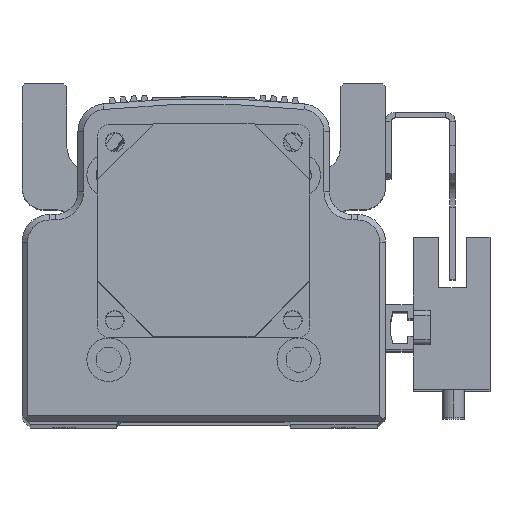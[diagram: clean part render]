
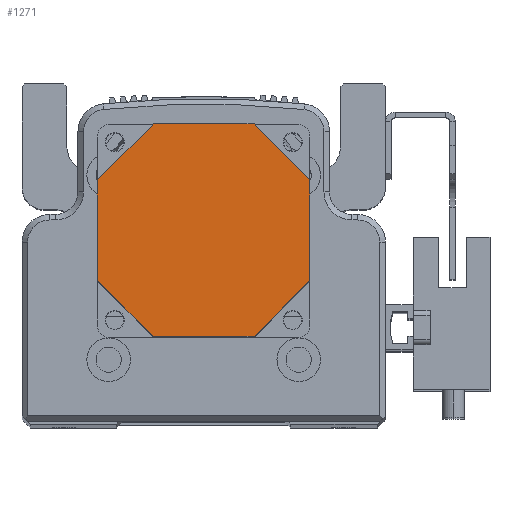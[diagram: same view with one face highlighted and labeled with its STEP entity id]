
A CAD part, top view. The second image highlights one B-rep face of the part: STEP entity #1271.
In plain terms, the highlighted planar face has unit normal (0, 0, 1) as drawn and (0, 0, -1) by its records, which use the part's own axes.
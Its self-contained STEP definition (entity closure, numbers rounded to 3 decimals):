
#1271 = ADVANCED_FACE ( 'NONE', ( #27900 ), #11298, .F. ) ;
#3063 = AXIS2_PLACEMENT_3D ( 'NONE', #11264, #11299, #11285 ) ;
#9305 = VECTOR ( 'NONE', #30907, 1000. ) ;
#9335 = LINE ( 'NONE', #30899, #9305 ) ;
#9399 = VECTOR ( 'NONE', #31139, 1000. ) ;
#9403 = VECTOR ( 'NONE', #31133, 1000. ) ;
#9489 = LINE ( 'NONE', #31127, #9399 ) ;
#9491 = LINE ( 'NONE', #31147, #9403 ) ;
#9629 = VECTOR ( 'NONE', #31509, 1000. ) ;
#9635 = VECTOR ( 'NONE', #31534, 1000. ) ;
#9637 = LINE ( 'NONE', #31527, #9635 ) ;
#9643 = LINE ( 'NONE', #31518, #9659 ) ;
#9645 = LINE ( 'NONE', #31490, #9655 ) ;
#9647 = LINE ( 'NONE', #31568, #9663 ) ;
#9655 = VECTOR ( 'NONE', #31492, 1000. ) ;
#9657 = LINE ( 'NONE', #31537, #9629 ) ;
#9659 = VECTOR ( 'NONE', #31498, 1000. ) ;
#9663 = VECTOR ( 'NONE', #31562, 1000. ) ;
#9777 = EDGE_LOOP ( 'NONE', ( #26421, #26422, #13060, #13101, #13118, #13109, #13102, #13065 ) ) ;
#11264 = CARTESIAN_POINT ( 'NONE',  ( 0., 0., -84. ) ) ;
#11285 = DIRECTION ( 'NONE',  ( 1., 0., 0. ) ) ;
#11298 = PLANE ( 'NONE',  #3063 ) ;
#11299 = DIRECTION ( 'NONE',  ( 0., 0., 1. ) ) ;
#12231 = VERTEX_POINT ( 'NONE', #24923 ) ;
#12267 = VERTEX_POINT ( 'NONE', #24970 ) ;
#12271 = VERTEX_POINT ( 'NONE', #24975 ) ;
#12277 = VERTEX_POINT ( 'NONE', #24977 ) ;
#12283 = VERTEX_POINT ( 'NONE', #24976 ) ;
#12309 = VERTEX_POINT ( 'NONE', #25008 ) ;
#12335 = VERTEX_POINT ( 'NONE', #25051 ) ;
#12343 = VERTEX_POINT ( 'NONE', #25014 ) ;
#13060 = ORIENTED_EDGE ( 'NONE', *, *, #33916, .T. ) ;
#13065 = ORIENTED_EDGE ( 'NONE', *, *, #33914, .T. ) ;
#13101 = ORIENTED_EDGE ( 'NONE', *, *, #33853, .T. ) ;
#13102 = ORIENTED_EDGE ( 'NONE', *, *, #33855, .T. ) ;
#13109 = ORIENTED_EDGE ( 'NONE', *, *, #33908, .T. ) ;
#13118 = ORIENTED_EDGE ( 'NONE', *, *, #33911, .T. ) ;
#24923 = CARTESIAN_POINT ( 'NONE',  ( -9., -19., -84. ) ) ;
#24970 = CARTESIAN_POINT ( 'NONE',  ( 19., -9., -84. ) ) ;
#24975 = CARTESIAN_POINT ( 'NONE',  ( -9., 19., -84. ) ) ;
#24976 = CARTESIAN_POINT ( 'NONE',  ( 9., -19., -84. ) ) ;
#24977 = CARTESIAN_POINT ( 'NONE',  ( -19., 9., -84. ) ) ;
#25008 = CARTESIAN_POINT ( 'NONE',  ( -19., -9., -84. ) ) ;
#25014 = CARTESIAN_POINT ( 'NONE',  ( 9., 19., -84. ) ) ;
#25051 = CARTESIAN_POINT ( 'NONE',  ( 19., 9., -84. ) ) ;
#26421 = ORIENTED_EDGE ( 'NONE', *, *, #33915, .T. ) ;
#26422 = ORIENTED_EDGE ( 'NONE', *, *, #33807, .T. ) ;
#27900 = FACE_OUTER_BOUND ( 'NONE', #9777, .T. ) ;
#30899 = CARTESIAN_POINT ( 'NONE',  ( -19., 9., -84. ) ) ;
#30907 = DIRECTION ( 'NONE',  ( 0., 1., 0. ) ) ;
#31127 = CARTESIAN_POINT ( 'NONE',  ( 9., 19., -84. ) ) ;
#31133 = DIRECTION ( 'NONE',  ( -0.707, -0.707, 0. ) ) ;
#31139 = DIRECTION ( 'NONE',  ( 1., 0., 0. ) ) ;
#31147 = CARTESIAN_POINT ( 'NONE',  ( 19., -9., -84. ) ) ;
#31490 = CARTESIAN_POINT ( 'NONE',  ( 19., 9., -84. ) ) ;
#31492 = DIRECTION ( 'NONE',  ( 0., -1., 0. ) ) ;
#31498 = DIRECTION ( 'NONE',  ( 0.707, 0.707, 0. ) ) ;
#31509 = DIRECTION ( 'NONE',  ( -1., 0., 0. ) ) ;
#31518 = CARTESIAN_POINT ( 'NONE',  ( -9., 19., -84. ) ) ;
#31527 = CARTESIAN_POINT ( 'NONE',  ( -9., -19., -84. ) ) ;
#31534 = DIRECTION ( 'NONE',  ( -0.707, 0.707, 0. ) ) ;
#31537 = CARTESIAN_POINT ( 'NONE',  ( 9., -19., -84. ) ) ;
#31562 = DIRECTION ( 'NONE',  ( 0.707, -0.707, 0. ) ) ;
#31568 = CARTESIAN_POINT ( 'NONE',  ( 19., 9., -84. ) ) ;
#33807 = EDGE_CURVE ( 'NONE', #12309, #12277, #9335, .T. ) ;
#33853 = EDGE_CURVE ( 'NONE', #12271, #12343, #9489, .T. ) ;
#33855 = EDGE_CURVE ( 'NONE', #12267, #12283, #9491, .T. ) ;
#33908 = EDGE_CURVE ( 'NONE', #12335, #12267, #9645, .T. ) ;
#33911 = EDGE_CURVE ( 'NONE', #12343, #12335, #9647, .T. ) ;
#33914 = EDGE_CURVE ( 'NONE', #12283, #12231, #9657, .T. ) ;
#33915 = EDGE_CURVE ( 'NONE', #12231, #12309, #9637, .T. ) ;
#33916 = EDGE_CURVE ( 'NONE', #12277, #12271, #9643, .T. ) ;
